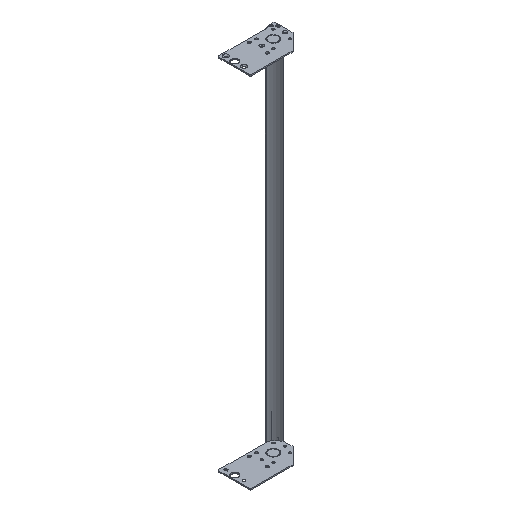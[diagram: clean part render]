
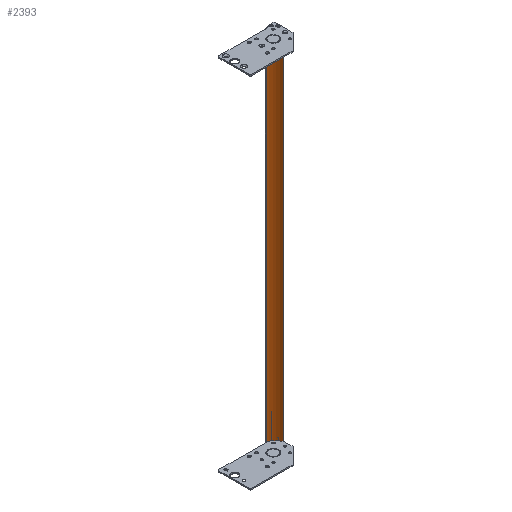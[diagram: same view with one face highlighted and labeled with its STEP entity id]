
A CAD part, isometric view. The second image highlights one B-rep face of the part: STEP entity #2393.
In plain terms, the highlighted cylindrical face has radius 40.64 mm (diameter 81.28 mm), a partial arc.
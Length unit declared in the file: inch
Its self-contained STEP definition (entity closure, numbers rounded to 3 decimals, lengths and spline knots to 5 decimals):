
#2087=DIRECTION('',(0.,0.,1.));
#2088=VECTOR('',#2087,38.236);
#2089=CARTESIAN_POINT('',(-0.98126,-0.05742,-19.118));
#2090=LINE('',#2089,#2088);
#2106=CARTESIAN_POINT('',(-1.63,-1.52,19.118));
#2107=DIRECTION('',(0.,0.,-1.));
#2108=DIRECTION('',(0.405,0.914,0.));
#2109=AXIS2_PLACEMENT_3D('',#2106,#2107,#2108);
#2150=CARTESIAN_POINT('',(-1.63,-1.52,-19.118));
#2151=DIRECTION('',(0.,0.,1.));
#2152=DIRECTION('',(0.946,0.325,0.));
#2153=AXIS2_PLACEMENT_3D('',#2150,#2151,#2152);
#2193=DIRECTION('',(0.,0.,1.));
#2194=VECTOR('',#2193,38.236);
#2195=CARTESIAN_POINT('',(-0.11675,-1.00032,-19.118));
#2196=LINE('',#2195,#2194);
#2249=CARTESIAN_POINT('',(-0.98126,-0.05742,-19.118));
#2250=VERTEX_POINT('',#2249);
#2255=CARTESIAN_POINT('',(-0.98126,-0.05742,19.118));
#2256=CARTESIAN_POINT('',(-0.11675,-1.00032,19.118));
#2257=VERTEX_POINT('',#2255);
#2258=VERTEX_POINT('',#2256);
#2259=CARTESIAN_POINT('',(-0.11675,-1.00032,-19.118));
#2260=VERTEX_POINT('',#2259);
#2381=CARTESIAN_POINT('',(-1.63,-1.52,19.118));
#2382=DIRECTION('',(0.,0.,-1.));
#2383=DIRECTION('',(-1.,0.,0.));
#2384=AXIS2_PLACEMENT_3D('',#2381,#2382,#2383);
#2385=CYLINDRICAL_SURFACE('',#2384,1.6);
#2386=ORIENTED_EDGE('',*,*,#2357,.T.);
#2387=ORIENTED_EDGE('',*,*,#2296,.T.);
#2388=ORIENTED_EDGE('',*,*,#2318,.T.);
#2390=ORIENTED_EDGE('',*,*,#2389,.F.);
#2391=EDGE_LOOP('',(#2386,#2387,#2388,#2390));
#2392=FACE_OUTER_BOUND('',#2391,.F.);
#2110=CIRCLE('',#2109,1.6);
#2154=CIRCLE('',#2153,1.6);
#2296=EDGE_CURVE('',#2250,#2257,#2090,.T.);
#2318=EDGE_CURVE('',#2257,#2258,#2110,.T.);
#2357=EDGE_CURVE('',#2260,#2250,#2154,.T.);
#2389=EDGE_CURVE('',#2260,#2258,#2196,.T.);
#2393=ADVANCED_FACE('',(#2392),#2385,.F.);
